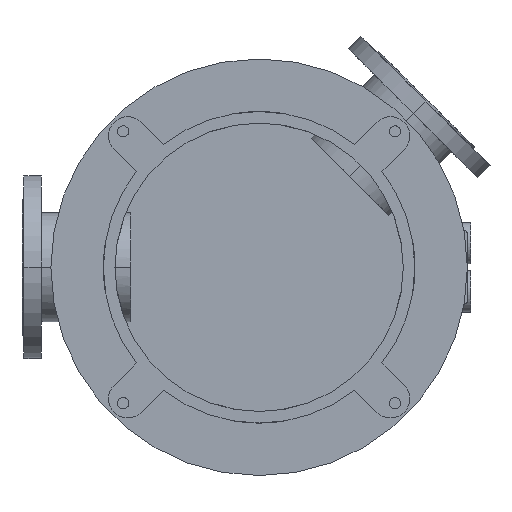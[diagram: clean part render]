
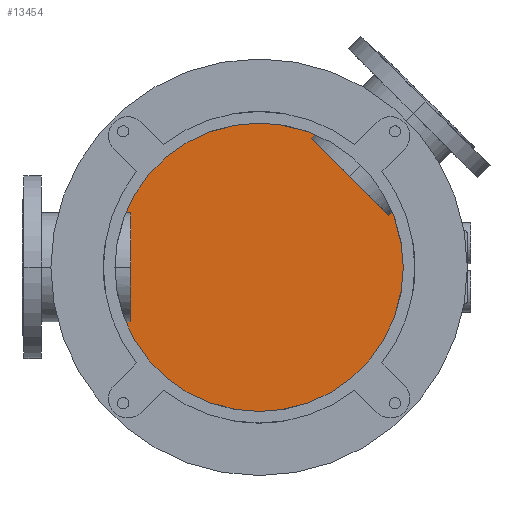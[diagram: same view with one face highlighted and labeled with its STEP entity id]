
A CAD part, front view. The second image highlights one B-rep face of the part: STEP entity #13454.
In plain terms, the highlighted planar face has unit normal (0, -1, 0).
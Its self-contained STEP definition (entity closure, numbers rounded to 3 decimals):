
#2800=CARTESIAN_POINT('',(0.,668.,0.));
#2801=DIRECTION('',(0.,-1.,0.));
#2802=DIRECTION('',(0.,0.,1.));
#2803=AXIS2_PLACEMENT_3D('',#2800,#2801,#2802);
#2928=CARTESIAN_POINT('',(0.,668.,0.));
#2929=DIRECTION('',(0.,-1.,0.));
#2930=DIRECTION('',(0.,0.,-1.));
#2931=AXIS2_PLACEMENT_3D('',#2928,#2929,#2930);
#8607=CARTESIAN_POINT('',(0.,668.,240.));
#8608=CARTESIAN_POINT('',(0.,668.,-240.));
#8609=VERTEX_POINT('',#8607);
#8610=VERTEX_POINT('',#8608);
#13444=CARTESIAN_POINT('',(0.,668.,0.));
#13445=DIRECTION('',(0.,1.,0.));
#13446=DIRECTION('',(0.,0.,-1.));
#13447=AXIS2_PLACEMENT_3D('',#13444,#13445,#13446);
#13448=PLANE('',#13447);
#13449=ORIENTED_EDGE('',*,*,#13428,.F.);
#13451=ORIENTED_EDGE('',*,*,#13450,.F.);
#13452=EDGE_LOOP('',(#13449,#13451));
#13453=FACE_OUTER_BOUND('',#13452,.F.);
#13454=ADVANCED_FACE('',(#13453),#13448,.F.);
#2804=CIRCLE('',#2803,240.);
#2932=CIRCLE('',#2931,240.);
#13428=EDGE_CURVE('',#8609,#8610,#2804,.T.);
#13450=EDGE_CURVE('',#8610,#8609,#2932,.T.);
